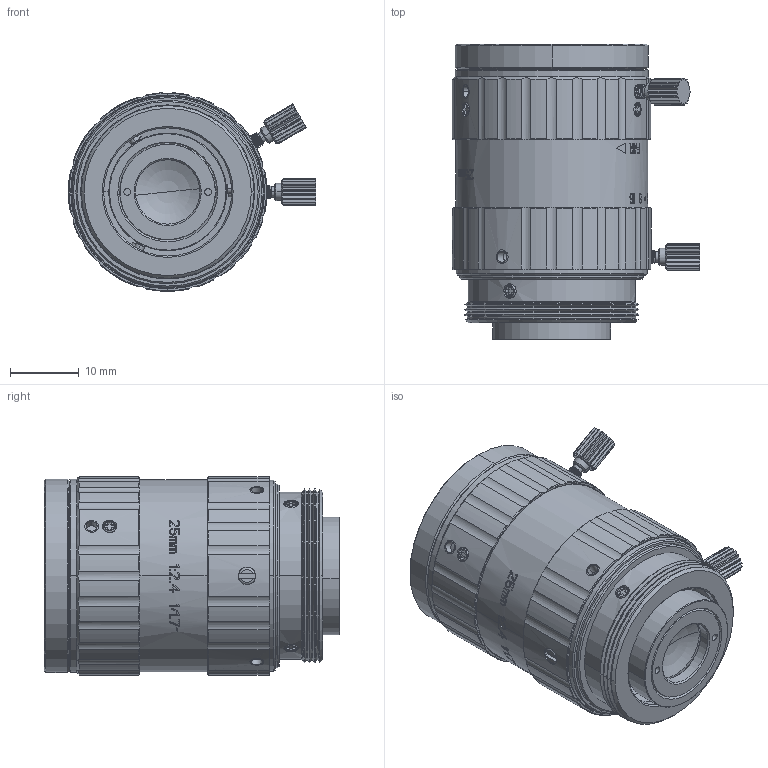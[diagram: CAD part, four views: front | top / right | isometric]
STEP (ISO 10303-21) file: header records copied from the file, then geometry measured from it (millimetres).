
FILE_DESCRIPTION((''),'2;1');
FILE_NAME('C-FA2513A_ASM','2023-09-19T15:13:22',('user'),(''),'CREO PARAMETRIC BY PTC INC, 2022073','CREO PARAMETRIC BY PTC INC, 2022073','');
FILE_SCHEMA(('CONFIG_CONTROL_DESIGN'));
Products named in the file (48): FA2513A-503_AF1; FA2513A-501_AF1; FA2513A-3012_AF1; FA2513A-JS1_AF1; FA2513A-502_AF1; MA090-02-06__A; MA095-02-03_AF5; MA087-01-0125M_AF_ASM; MA087-01-0125MM_AF0_ASM; MA095-02-03_AF6; MA095-02-03_AF7; MA095-02-03_AF8; MA095-02-03_AF9; FA2513A-536_AF1; MA095-02-0425MM_AF0; FA2513A-304567_AF1; FA2513A-308_AF1; FS2513A-JS2_AF1; FA2513A-202_AF1_ASM; FA2513A-508_AF1; FA2513A-507_AF1; FA2513A-506_AF1; FA2513A-505_AF1; M14252001; M14252001_AF3; M14252001_AF4; M14252001_AF5; GB4624A-521-V01_AF1; IRF19-531_AF1; IRF19-531; C-FA2513A_ASM
Assembly tree (49 placements, depth 5):
  C-FA2513A_ASM
    FA2513A-503_AF1
    FA2513A-501_AF1
    FA2513A-3012_AF1
    FA2513A-JS1_AF1
    FA2513A-202_AF1_ASM
      FA2513A-502_AF1
      MA087-01-0125MM_AF0_ASM
        MA087-01-0125M_AF_ASM
          MA090-02-06__A
          MA090-02-06__A
          MA095-02-03_AF5
      MA087-01-0125MM_AF0_ASM
        MA087-01-0125M_AF_ASM
          MA090-02-06__A
          MA090-02-06__A
          MA095-02-03_AF6
      MA087-01-0125MM_AF0_ASM
        MA087-01-0125M_AF_ASM
          MA090-02-06__A
          MA090-02-06__A
          MA095-02-03_AF7
      MA087-01-0125MM_AF0_ASM
        MA087-01-0125M_AF_ASM
          MA090-02-06__A
          MA090-02-06__A
          MA095-02-03_AF8
      MA087-01-0125MM_AF0_ASM
        MA087-01-0125M_AF_ASM
          MA090-02-06__A
          MA090-02-06__A
          MA095-02-03_AF9
      FA2513A-536_AF1
      MA095-02-0425MM_AF0
      FA2513A-304567_AF1
      FA2513A-308_AF1
      FS2513A-JS2_AF1
    FA2513A-508_AF1
    FA2513A-507_AF1
    FA2513A-506_AF1
    FA2513A-505_AF1
    M14252001  x3
    M14252001_AF3
    M14252001_AF4
    M14252001_AF5
    GB4624A-521-V01_AF1
    IRF19-531_AF1
    IRF19-531
Bounding box: 36.1 x 43.13 x 28.98 mm (x, y, z)
Volume: 6984 mm3; surface area: 15651.6 mm2
Topology: 20 solids, 37 shells, 1527 faces, 3977 edges, 2570 vertices
Faces by surface type: plane 492, cylinder 415, bspline 353, cone 237, torus 26, sphere 4
Entity records: 61304 total; most frequent: CARTESIAN_POINT 26502, ORIENTED_EDGE 7578, DIRECTION 6260, EDGE_CURVE 3827, VERTEX_POINT 2478, AXIS2_PLACEMENT_3D 2358, EDGE_LOOP 1601, VECTOR 1544
